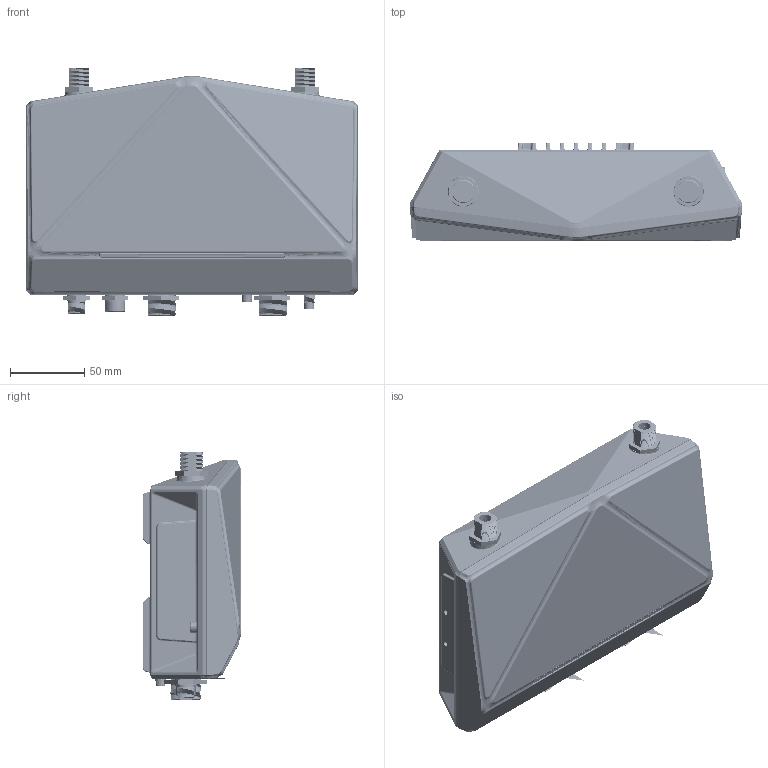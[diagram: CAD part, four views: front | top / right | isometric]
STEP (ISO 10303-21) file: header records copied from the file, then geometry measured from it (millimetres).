
FILE_DESCRIPTION((''),'2;1');
FILE_NAME('AWK-4131A_ASM_ASM','2018-02-08T',('Jeson_Chien'),('PTC'),'PRO/ENGINEER BY PARAMETRIC TECHNOLOGY CORPORATION, 2013230','PRO/ENGINEER BY PARAMETRIC TECHNOLOGY CORPORATION, 2013230','');
FILE_SCHEMA(('AUTOMOTIVE_DESIGN { 1 0 10303 214 1 1 1 1 }'));
Products named in the file (30): AWK-4131A_TOPCVR_14; AWK-4131A_BOTCVR_V2_10; MANIFOLD_SOLID_BREP_154643; MANIFOLD_SOLID_BREP_154780; LTW12-05PMM-SF8001_3_ASM; MANIFOLD_SOLID_BREP_159692; MANIFOLD_SOLID_BREP_159829; LTW12-08PFFS-SF8001_3_ASM; MANIFOLD_SOLID_BREP_174110; MANIFOLD_SOLID_BREP_174247; LTWRJS-5EPFFJ-SC7009_3_ASM; WATERPROOF-MAT-AWK-4121_3; MANIFOLD_SOLID_BREP_226316; MANIFOLD_SOLID_BREP_226453; N-TYPE-AP-CONN_3_ASM; WATERPROOF-LED-AWK-4121_3; RESET-CONN-AWK4121_AF0_3; RESET-BUTTON-AWK4121_9; SCREW-IMS_M4X4_3; RESET-CONN-WATERPROOF_ASM_3_ASM; AWK4121_LED-PIPE_4; LED-BOARD-ASM-AWK4121_ASM_3_ASM; SCREW-INNER-HEX-M4X30_3; O-RING_1-9_3; MANIFOLD_SOLID_BREP_269261; MANIFOLD_SOLID_BREP_269398; VENT-MEMBRANE_M12_3_ASM; SPACER_5H_M-F_M3_3; AWK-4131A_ASM_23_ASM; AWK-4131A_ASM_ASM
Assembly tree (31 placements, depth 4):
  AWK-4131A_ASM_ASM
    AWK-4131A_ASM_23_ASM
      AWK-4131A_TOPCVR_14
      AWK-4131A_BOTCVR_V2_10
      LTW12-05PMM-SF8001_3_ASM
        MANIFOLD_SOLID_BREP_154643
        MANIFOLD_SOLID_BREP_154780
      LTW12-08PFFS-SF8001_3_ASM
        MANIFOLD_SOLID_BREP_159692
        MANIFOLD_SOLID_BREP_159829
      LTWRJS-5EPFFJ-SC7009_3_ASM  x2
        MANIFOLD_SOLID_BREP_174110
        MANIFOLD_SOLID_BREP_174247
      WATERPROOF-MAT-AWK-4121_3
      N-TYPE-AP-CONN_3_ASM  x2
        MANIFOLD_SOLID_BREP_226316
        MANIFOLD_SOLID_BREP_226453
      WATERPROOF-LED-AWK-4121_3
      RESET-CONN-WATERPROOF_ASM_3_ASM
        RESET-CONN-AWK4121_AF0_3
        RESET-BUTTON-AWK4121_9
        SCREW-IMS_M4X4_3
      LED-BOARD-ASM-AWK4121_ASM_3_ASM
        AWK4121_LED-PIPE_4
      SCREW-INNER-HEX-M4X30_3
      O-RING_1-9_3
      VENT-MEMBRANE_M12_3_ASM
        MANIFOLD_SOLID_BREP_269261
        MANIFOLD_SOLID_BREP_269398
      SPACER_5H_M-F_M3_3
Bounding box: 224 x 66.5 x 166.97 mm (x, y, z)
Volume: 398775.3 mm3; surface area: 262894.4 mm2
Topology: 23 solids, 30 shells, 4664 faces, 11951 edges, 7457 vertices
Faces by surface type: cylinder 1468, bspline 1217, plane 1153, cone 346, torus 337, extrusion 74, sphere 69
Entity records: 235792 total; most frequent: CARTESIAN_POINT 104908, ORIENTED_EDGE 22146, DIRECTION 17621, EDGE_CURVE 11100, VERTEX_POINT 6925, AXIS2_PLACEMENT_3D 6652, PRESENTATION_STYLE_ASSIGNMENT 6376, STYLED_ITEM 6364
